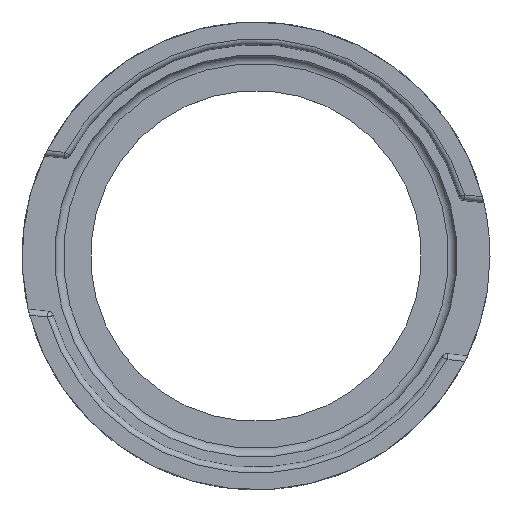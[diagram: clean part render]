
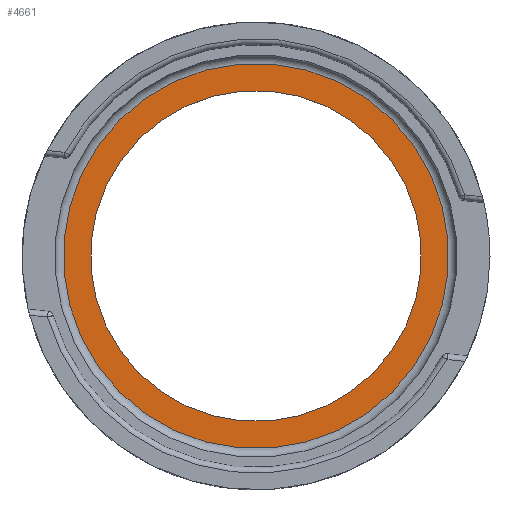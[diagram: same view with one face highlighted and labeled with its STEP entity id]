
A CAD part, top view. The second image highlights one B-rep face of the part: STEP entity #4661.
In plain terms, the highlighted planar face has unit normal (0, 0, 1).
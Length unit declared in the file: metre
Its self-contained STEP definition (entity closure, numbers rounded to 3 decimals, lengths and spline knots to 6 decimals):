
#664=CIRCLE('',#5043,0.03375);
#665=CIRCLE('',#5044,0.029);
#1553=ORIENTED_EDGE('',*,*,#2793,.T.);
#1554=ORIENTED_EDGE('',*,*,#2794,.T.);
#2793=EDGE_CURVE('',#3332,#3332,#664,.F.);
#2794=EDGE_CURVE('',#3333,#3333,#665,.T.);
#3332=VERTEX_POINT('',#11430);
#3333=VERTEX_POINT('',#11432);
#3910=EDGE_LOOP('',(#1553));
#3911=EDGE_LOOP('',(#1554));
#4226=FACE_BOUND('',#3910,.T.);
#4227=FACE_BOUND('',#3911,.T.);
#4427=PLANE('',#5042);
#4661=ADVANCED_FACE('',(#4226,#4227),#4427,.F.);
#5042=AXIS2_PLACEMENT_3D('',#11428,#5630,#5631);
#5043=AXIS2_PLACEMENT_3D('',#11429,#5632,#5633);
#5044=AXIS2_PLACEMENT_3D('',#11431,#5634,#5635);
#5630=DIRECTION('',(0.,0.,-1.));
#5631=DIRECTION('',(0.819,0.574,0.));
#5632=DIRECTION('',(0.,0.,-1.));
#5633=DIRECTION('',(0.819,0.574,0.));
#5634=DIRECTION('',(0.,0.,-1.));
#5635=DIRECTION('',(0.819,0.574,0.));
#11428=CARTESIAN_POINT('',(0.,0.,0.0678));
#11429=CARTESIAN_POINT('',(0.,0.,0.0678));
#11430=CARTESIAN_POINT('',(0.027646,0.019358,0.0678));
#11431=CARTESIAN_POINT('',(0.,0.,0.0678));
#11432=CARTESIAN_POINT('',(0.023755,0.016634,0.0678));
